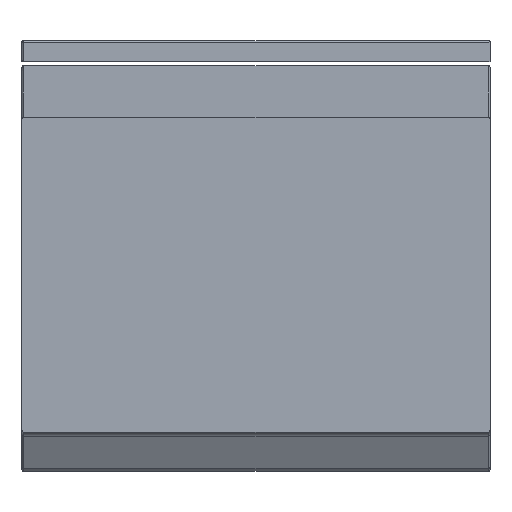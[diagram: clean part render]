
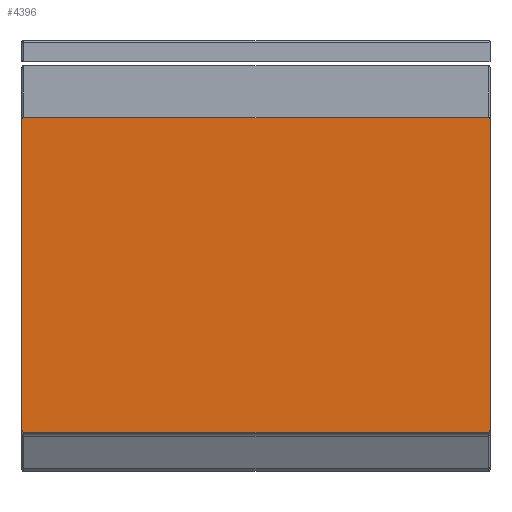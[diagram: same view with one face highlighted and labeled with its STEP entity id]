
A CAD part, front view. The second image highlights one B-rep face of the part: STEP entity #4396.
In plain terms, the highlighted planar face has unit normal (0, -1, 0).
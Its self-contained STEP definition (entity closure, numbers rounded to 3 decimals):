
#50 = VECTOR ( 'NONE', #5013, 1000. ) ;
#115 = VERTEX_POINT ( 'NONE', #9075 ) ;
#323 = EDGE_CURVE ( 'NONE', #8561, #5146, #381, .T. ) ;
#381 = LINE ( 'NONE', #4306, #3596 ) ;
#989 = VECTOR ( 'NONE', #2647, 1000. ) ;
#1194 = CARTESIAN_POINT ( 'NONE',  ( -299., 0., 451.7 ) ) ;
#1349 = VERTEX_POINT ( 'NONE', #6757 ) ;
#1632 = CARTESIAN_POINT ( 'NONE',  ( 297., 0., 50. ) ) ;
#1709 = DIRECTION ( 'NONE',  ( 0., 0., -1. ) ) ;
#1738 = LINE ( 'NONE', #5081, #50 ) ;
#1860 = VERTEX_POINT ( 'NONE', #6777 ) ;
#1945 = VERTEX_POINT ( 'NONE', #9780 ) ;
#2026 = CARTESIAN_POINT ( 'NONE',  ( 297., 0., 52. ) ) ;
#2110 = DIRECTION ( 'NONE',  ( 0., 0., -1. ) ) ;
#2187 = CIRCLE ( 'NONE', #2200, 2. ) ;
#2200 = AXIS2_PLACEMENT_3D ( 'NONE', #7161, #3978, #7093 ) ;
#2206 = ORIENTED_EDGE ( 'NONE', *, *, #8493, .T. ) ;
#2365 = AXIS2_PLACEMENT_3D ( 'NONE', #2026, #4995, #5060 ) ;
#2370 = ORIENTED_EDGE ( 'NONE', *, *, #323, .F. ) ;
#2485 = ORIENTED_EDGE ( 'NONE', *, *, #4267, .T. ) ;
#2507 = CIRCLE ( 'NONE', #6651, 2. ) ;
#2588 = CARTESIAN_POINT ( 'NONE',  ( 299., 0., 52. ) ) ;
#2647 = DIRECTION ( 'NONE',  ( 1., 0., 0. ) ) ;
#2760 = DIRECTION ( 'NONE',  ( 0., 0., -1. ) ) ;
#2898 = VECTOR ( 'NONE', #3443, 1000. ) ;
#3209 = CARTESIAN_POINT ( 'NONE',  ( 297., 0., 449.7 ) ) ;
#3346 = ORIENTED_EDGE ( 'NONE', *, *, #4883, .T. ) ;
#3368 = LINE ( 'NONE', #1194, #2898 ) ;
#3443 = DIRECTION ( 'NONE',  ( 1., 0., 0. ) ) ;
#3582 = CARTESIAN_POINT ( 'NONE',  ( -297., 0., 449.7 ) ) ;
#3596 = VECTOR ( 'NONE', #2760, 1000. ) ;
#3966 = VERTEX_POINT ( 'NONE', #1632 ) ;
#3978 = DIRECTION ( 'NONE',  ( 0., -1., 0. ) ) ;
#4043 = ORIENTED_EDGE ( 'NONE', *, *, #4361, .F. ) ;
#4267 = EDGE_CURVE ( 'NONE', #115, #7786, #1738, .T. ) ;
#4306 = CARTESIAN_POINT ( 'NONE',  ( 299., 0., 451.7 ) ) ;
#4315 = PLANE ( 'NONE',  #6033 ) ;
#4361 = EDGE_CURVE ( 'NONE', #1349, #1860, #3368, .T. ) ;
#4396 = ADVANCED_FACE ( 'NONE', ( #8862 ), #4315, .T. ) ;
#4883 = EDGE_CURVE ( 'NONE', #7786, #1945, #2187, .T. ) ;
#4995 = DIRECTION ( 'NONE',  ( 0., -1., 0. ) ) ;
#5013 = DIRECTION ( 'NONE',  ( 0., 0., -1. ) ) ;
#5060 = DIRECTION ( 'NONE',  ( 0., 0., -1. ) ) ;
#5081 = CARTESIAN_POINT ( 'NONE',  ( -299., 0., 451.7 ) ) ;
#5146 = VERTEX_POINT ( 'NONE', #2588 ) ;
#5157 = DIRECTION ( 'NONE',  ( 0., -1., 0. ) ) ;
#5206 = EDGE_LOOP ( 'NONE', ( #2370, #5764, #4043, #2206, #2485, #3346, #7914, #6350 ) ) ;
#5764 = ORIENTED_EDGE ( 'NONE', *, *, #8150, .T. ) ;
#5999 = DIRECTION ( 'NONE',  ( 0., 0., -1. ) ) ;
#6033 = AXIS2_PLACEMENT_3D ( 'NONE', #9621, #8244, #5999 ) ;
#6350 = ORIENTED_EDGE ( 'NONE', *, *, #8426, .T. ) ;
#6375 = CARTESIAN_POINT ( 'NONE',  ( -299., 0., 52. ) ) ;
#6651 = AXIS2_PLACEMENT_3D ( 'NONE', #3582, #5157, #2110 ) ;
#6757 = CARTESIAN_POINT ( 'NONE',  ( -297., 0., 451.7 ) ) ;
#6777 = CARTESIAN_POINT ( 'NONE',  ( 297., 0., 451.7 ) ) ;
#6916 = CIRCLE ( 'NONE', #2365, 2. ) ;
#7092 = LINE ( 'NONE', #7940, #989 ) ;
#7093 = DIRECTION ( 'NONE',  ( 0., 0., -1. ) ) ;
#7161 = CARTESIAN_POINT ( 'NONE',  ( -297., 0., 52. ) ) ;
#7329 = EDGE_CURVE ( 'NONE', #1945, #3966, #7092, .T. ) ;
#7772 = CARTESIAN_POINT ( 'NONE',  ( 299., 0., 449.7 ) ) ;
#7786 = VERTEX_POINT ( 'NONE', #6375 ) ;
#7793 = DIRECTION ( 'NONE',  ( 0., -1., 0. ) ) ;
#7914 = ORIENTED_EDGE ( 'NONE', *, *, #7329, .T. ) ;
#7940 = CARTESIAN_POINT ( 'NONE',  ( -299., 0., 50. ) ) ;
#8150 = EDGE_CURVE ( 'NONE', #8561, #1860, #8339, .T. ) ;
#8244 = DIRECTION ( 'NONE',  ( 0., -1., 0. ) ) ;
#8339 = CIRCLE ( 'NONE', #9398, 2. ) ;
#8426 = EDGE_CURVE ( 'NONE', #3966, #5146, #6916, .T. ) ;
#8493 = EDGE_CURVE ( 'NONE', #1349, #115, #2507, .T. ) ;
#8561 = VERTEX_POINT ( 'NONE', #7772 ) ;
#8862 = FACE_OUTER_BOUND ( 'NONE', #5206, .T. ) ;
#9075 = CARTESIAN_POINT ( 'NONE',  ( -299., 0., 449.7 ) ) ;
#9398 = AXIS2_PLACEMENT_3D ( 'NONE', #3209, #7793, #1709 ) ;
#9621 = CARTESIAN_POINT ( 'NONE',  ( -299., 0., 451.7 ) ) ;
#9780 = CARTESIAN_POINT ( 'NONE',  ( -297., 0., 50. ) ) ;
